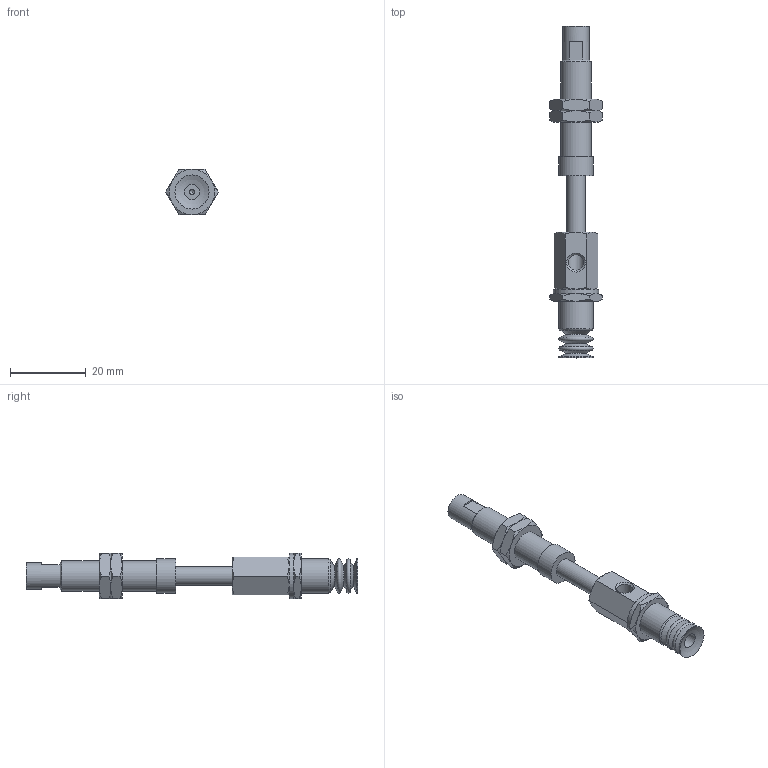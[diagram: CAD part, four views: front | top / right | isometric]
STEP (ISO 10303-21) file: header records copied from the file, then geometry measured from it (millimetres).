
FILE_DESCRIPTION(('STEP AP203'),'1');
FILE_NAME('.stp','2025-04-03T06:43:34',(' '),(' '),'Spatial InterOp 3D',' ',' ');
FILE_SCHEMA(('CONFIG_CONTROL_DESIGN'));
Length unit declared in the file: millimetre
Products named in the file (7): BNABPCYS-10-15-※; Adapter_napc-10-T; Connector_s-10-15; Nut napc_s-10-15; NAPCTS-10-15-FBODY; NAPCTS-10-15-MBODY; BPCG-10-※
Assembly tree (7 placements, depth 2):
  BNABPCYS-10-15-※
    Adapter_napc-10-T
    Connector_s-10-15
    Nut napc_s-10-15  x2
    NAPCTS-10-15-FBODY
    NAPCTS-10-15-MBODY
    BPCG-10-※
Bounding box: 13.86 x 87.7 x 12 mm (x, y, z)
Volume: 4955.6 mm3; surface area: 5412.6 mm2
Topology: 7 solids, 7 shells, 159 faces, 329 edges, 193 vertices
Faces by surface type: cone 69, plane 59, cylinder 21, torus 8, sphere 2
Full cylindrical faces by diameter (mm): 1.25 x1, 4 x1, 4.134 x3, 5 x8, 7 x1, 7.188 x2, 8 x1, 9 x3, 12 x1
Entity records: 4024 total; most frequent: CARTESIAN_POINT 1069, DIRECTION 548, ORIENTED_EDGE 458, AXIS2_PLACEMENT_3D 251, EDGE_CURVE 229, EDGE_LOOP 202, FACE_OUTER_BOUND 166, VERTEX_POINT 162
